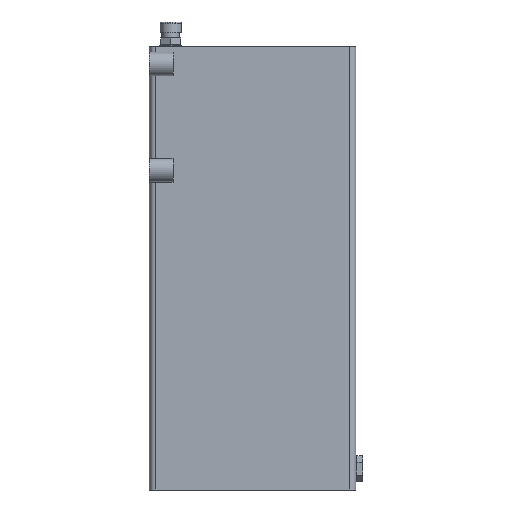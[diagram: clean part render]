
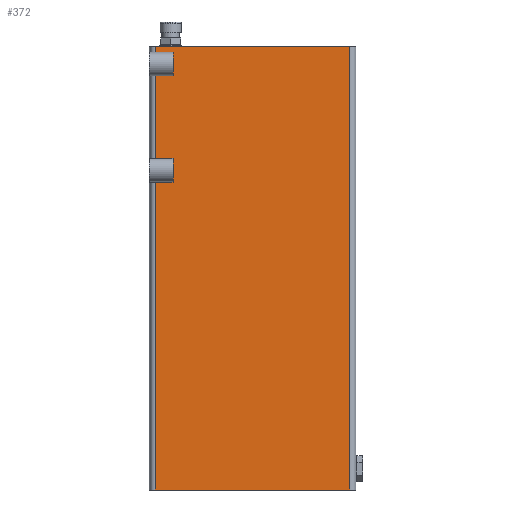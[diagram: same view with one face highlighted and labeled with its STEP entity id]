
A CAD part, left-side view. The second image highlights one B-rep face of the part: STEP entity #372.
In plain terms, the highlighted planar face has unit normal (-1, 0, 0).
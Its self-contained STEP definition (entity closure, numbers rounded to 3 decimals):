
#372 = ADVANCED_FACE( '', ( #674 ), #675, .F. );
#674 = FACE_OUTER_BOUND( '', #1007, .T. );
#675 = PLANE( '', #1008 );
#1007 = EDGE_LOOP( '', ( #1472, #1473, #1474, #1475 ) );
#1008 = AXIS2_PLACEMENT_3D( '', #1476, #1477, #1478 );
#1472 = ORIENTED_EDGE( '', *, *, #2033, .T. );
#1473 = ORIENTED_EDGE( '', *, *, #2034, .F. );
#1474 = ORIENTED_EDGE( '', *, *, #2035, .F. );
#1475 = ORIENTED_EDGE( '', *, *, #2036, .T. );
#1476 = CARTESIAN_POINT( '', ( -87.5, 82.5, 376. ) );
#1477 = DIRECTION( '', ( 1., 0., 0. ) );
#1478 = DIRECTION( '', ( 0., 0., -1. ) );
#2033 = EDGE_CURVE( '', #2441, #2442, #2443, .T. );
#2034 = EDGE_CURVE( '', #2444, #2442, #2445, .T. );
#2035 = EDGE_CURVE( '', #2446, #2444, #2447, .T. );
#2036 = EDGE_CURVE( '', #2446, #2441, #2448, .T. );
#2441 = VERTEX_POINT( '', #2872 );
#2442 = VERTEX_POINT( '', #2873 );
#2443 = LINE( '', #2874, #2875 );
#2444 = VERTEX_POINT( '', #2876 );
#2445 = LINE( '', #2877, #2878 );
#2446 = VERTEX_POINT( '', #2879 );
#2447 = LINE( '', #2880, #2881 );
#2448 = LINE( '', #2882, #2883 );
#2872 = CARTESIAN_POINT( '', ( -87.5, 82.5, 0. ) );
#2873 = CARTESIAN_POINT( '', ( -87.5, -82.5, 0. ) );
#2874 = CARTESIAN_POINT( '', ( -87.5, 82.5, 0. ) );
#2875 = VECTOR( '', #3266, 1000. );
#2876 = CARTESIAN_POINT( '', ( -87.5, -82.5, 376. ) );
#2877 = CARTESIAN_POINT( '', ( -87.5, -82.5, 376. ) );
#2878 = VECTOR( '', #3267, 1000. );
#2879 = CARTESIAN_POINT( '', ( -87.5, 82.5, 376. ) );
#2880 = CARTESIAN_POINT( '', ( -87.5, 82.5, 376. ) );
#2881 = VECTOR( '', #3268, 1000. );
#2882 = CARTESIAN_POINT( '', ( -87.5, 82.5, 376. ) );
#2883 = VECTOR( '', #3269, 1000. );
#3266 = DIRECTION( '', ( 0., -1., 0. ) );
#3267 = DIRECTION( '', ( 0., 0., -1. ) );
#3268 = DIRECTION( '', ( 0., -1., 0. ) );
#3269 = DIRECTION( '', ( 0., 0., -1. ) );
